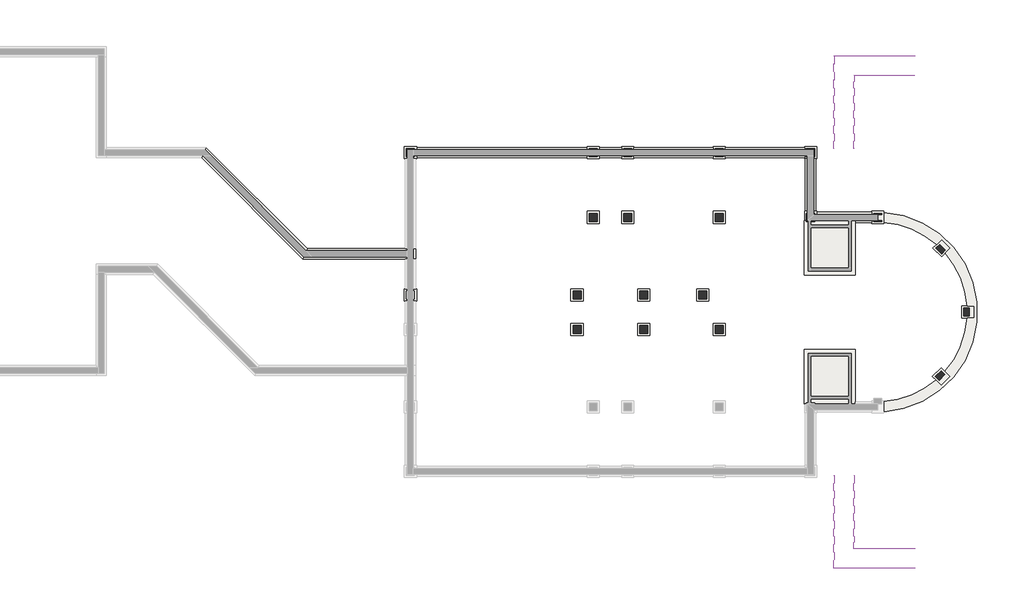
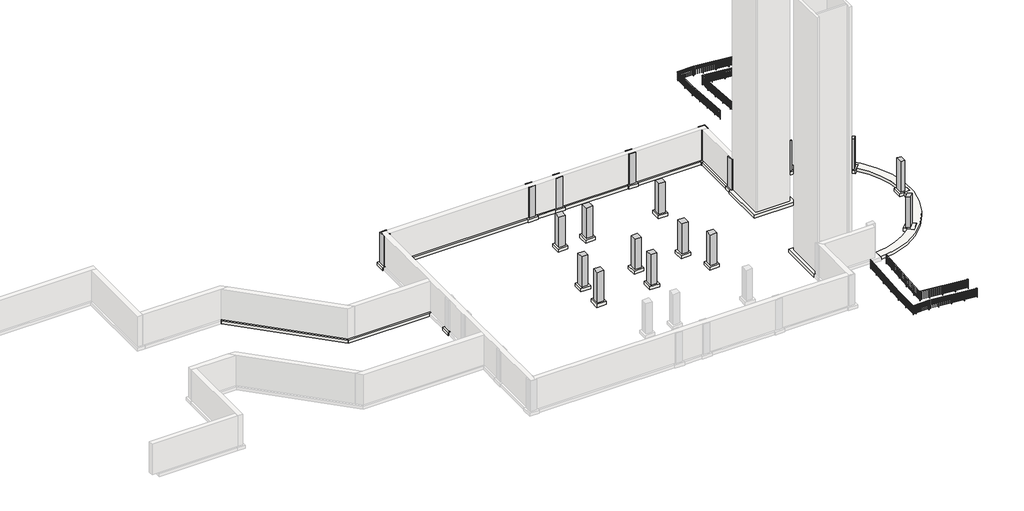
# One storey, part 3 of 3: 22 slabs, 19 columns, 6 footings, 4 railings.
"""IFC4 building model written with IfcOpenShell, lengths in millimetres."""

from ifc_helpers import new_model, si_unit, point, frame, frame_2d, origin, place, context, project, spatial, polyline, circle_curve, trimmed, segment, composite_curve, outline, extrude, faceted_brep, transform, mapped, element, save
from components import concrete_square_column_24_x_24_7ceb939f, handrail_pipe_b21a8dd5, handrail_pipe_77dd8e58, handrail_pipe_39028d69, handrail_pipe_67e9e0a0, slab_e1b4b68c

model = new_model("IFC4")

# Units and contexts
model_context = context("Model", 3, world=origin())
ifc_project = project(units=[si_unit("LENGTHUNIT", "METRE", prefix="MILLI")], contexts=[model_context])

# Site, building, storey
site = spatial("IfcSite", under=ifc_project)
building = spatial("IfcBuilding", under=site)
storey = spatial("IfcBuildingStorey", under=building, Name="T.O. Footing", Elevation=-3048.0)

# Columns
placement = place(None, origin())
element("IfcColumn", 1, ObjectType="Concrete-Square-Column : 24 x 24", at=placement, inside=storey, context=model_context, shape_type="SweptSolid", body=[
    extrude(outline(polyline([(10274.849745, 12872.8862109), (10351.049745, 12872.8862109), (10351.049745, 12796.6862109), (10274.849745, 12796.6862109), (10274.849745, 12872.8862109)])), frame((0.0, 0.0, -3048.0), z_axis=(0.0, 0.0, 1.0), x_axis=(1.0, 0.0, 0.0)), (0.0, 0.0, 1.0), 3048.0),
    extrude(outline(polyline([(10351.049745, 12263.2862109), (9741.449745, 12263.2862109), (9741.449745, 12872.8862109), (9817.649745, 12872.8862109), (9817.649745, 12339.4862109), (10351.049745, 12339.4862109), (10351.049745, 12263.2862109)])), frame((0.0, 0.0, -3048.0), z_axis=(0.0, 0.0, 1.0), x_axis=(1.0, 0.0, 0.0)), (0.0, 0.0, 1.0), 3048.0),
])
element("IfcColumn", 2, ObjectType="Concrete-Square-Column : 24 x 24", at=placement, inside=storey, context=model_context, shape_type="SweptSolid", body=[
    extrude(outline(composite_curve([segment(polyline([(14794.462245, 12872.8862109), (15404.062245, 12872.8862109), (15404.062245, 12790.3786628)]), True, "CONTINUOUS"), segment(trimmed(circle_curve(frame_2d((15099.262245, 5429.0987109)), 7367.5875), [point((15404.062245, 12790.3786628))], [point((15099.262245, 12796.6862109))], True, "CARTESIAN"), True, "CONTINUOUS"), segment(polyline([(15099.262245, 12796.6862109), (14794.462245, 12796.6862109), (14794.462245, 12872.8862109)]), True, "CONTINUOUS")], self_intersect=False)), frame((0.0, 0.0, -3048.0), z_axis=(0.0, 0.0, 1.0), x_axis=(1.0, 0.0, 0.0)), (0.0, 0.0, 1.0), 3048.0),
    extrude(outline(composite_curve([segment(polyline([(15404.062245, 12263.2862109), (14794.462245, 12263.2862109), (14794.462245, 12339.4862109), (15099.262245, 12339.4862109)]), True, "CONTINUOUS"), segment(trimmed(circle_curve(frame_2d((15099.262245, 5429.0987109)), 6910.3875), [point((15099.262245, 12339.4862109))], [point((15404.062245, 12332.7609535))], False, "CARTESIAN"), True, "CONTINUOUS"), segment(polyline([(15404.062245, 12332.7609535), (15404.062245, 12263.2862109)]), True, "CONTINUOUS")], self_intersect=False)), frame((0.0, 0.0, -3048.0), z_axis=(0.0, 0.0, 1.0), x_axis=(1.0, 0.0, 0.0)), (0.0, 0.0, 1.0), 3048.0),
])
element("IfcColumn", 3, ObjectType="Concrete-Square-Column : 24 x 24", at=placement, inside=storey, context=model_context, shape_type="SweptSolid", body=[
    extrude(outline(composite_curve([segment(polyline([(19914.9245899, 9813.708762), (19483.8722961, 10244.7610558), (19765.3624849, 10526.2512446)]), True, "CONTINUOUS"), segment(trimmed(circle_curve(frame_2d((15099.262245, 5429.0987109)), 6910.3875), [point((19765.3624849, 10526.2512446))], [point((20196.4147787, 10095.1989508))], False, "CARTESIAN"), True, "CONTINUOUS"), segment(polyline([(20196.4147787, 10095.1989508), (19914.9245899, 9813.708762)]), True, "CONTINUOUS")], self_intersect=False)), frame((0.0, 0.0, -3048.0), z_axis=(0.0, 0.0, 1.0), x_axis=(1.0, 0.0, 0.0)), (0.0, 0.0, 1.0), 3048.0),
])
element("IfcColumn", 4, ObjectType="Concrete-Square-Column : 24 x 24", at=placement, inside=storey, context=model_context, shape_type="SweptSolid", body=[
    extrude(outline(composite_curve([segment(polyline([(21604.837245, 5124.2987109), (21604.837245, 5733.8987109), (22002.9244876, 5733.8987109)]), True, "CONTINUOUS"), segment(trimmed(circle_curve(frame_2d((15099.262245, 5429.0987109)), 6910.3875), [point((22002.9244876, 5733.8987109))], [point((22002.9244876, 5124.2987109))], False, "CARTESIAN"), True, "CONTINUOUS"), segment(polyline([(22002.9244876, 5124.2987109), (21604.837245, 5124.2987109)]), True, "CONTINUOUS")], self_intersect=False)), frame((0.0, 0.0, -3048.0), z_axis=(0.0, 0.0, 1.0), x_axis=(1.0, 0.0, 0.0)), (0.0, 0.0, 1.0), 3048.0),
])
element("IfcColumn", 5, ObjectType="Concrete-Square-Column : 24 x 24", at=placement, inside=storey, context=model_context, shape_type="SweptSolid", body=[
    extrude(outline(composite_curve([segment(polyline([(19446.7193548, 576.5678742), (19877.7716486, 1007.620168), (20160.8975737, 724.4942429)]), True, "CONTINUOUS"), segment(trimmed(circle_curve(frame_2d((15099.262245, 5429.0987109)), 6910.3875), [point((20160.8975737, 724.4942429))], [point((19726.577104, 296.710125))], False, "CARTESIAN"), True, "CONTINUOUS"), segment(polyline([(19726.577104, 296.710125), (19446.7193548, 576.5678742)]), True, "CONTINUOUS")], self_intersect=False)), frame((0.0, 0.0, -3048.0), z_axis=(0.0, 0.0, 1.0), x_axis=(1.0, 0.0, 0.0)), (0.0, 0.0, 1.0), 3048.0),
])
element("IfcColumn", 6, ObjectType="Concrete-Square-Column : 24 x 24", at=placement, inside=storey, context=model_context, shape_type="Brep", body=[
    faceted_brep([(-19776.525255, 17140.0862109, -3048.0), (-19852.725255, 17140.0862109, -3048.0), (-19852.725255, 17216.2862109, -3048.0), (-19776.525255, 17216.2862109, -3048.0), (-19776.525255, 17140.0862109, 0.0), (-19776.525255, 17216.2862109, 0.0), (-19852.725255, 17140.0862109, 0.0), (-19852.725255, 17216.2862109, 0.0)], [[[0, 1, 2, 3]], [[4, 0, 3, 5]], [[1, 6, 7, 2]], [[0, 4, 6, 1]], [[3, 2, 7, 5]], [[6, 4, 5, 7]]]),
    faceted_brep([(-19776.525255, 17749.6862109, -3048.0), (-20386.125255, 17749.6862109, -3048.0), (-20386.125255, 17749.6862109, 0.0), (-19776.525255, 17749.6862109, 0.0), (-20386.125255, 17140.0862109, 0.0), (-20386.125255, 17140.0862109, -3048.0), (-20309.925255, 17140.0862109, -3048.0), (-20309.925255, 17140.0862109, 0.0), (-20309.925255, 17673.4862109, 0.0), (-19852.725255, 17673.4862109, 0.0), (-19776.525255, 17673.4862109, 0.0), (-20309.925255, 17673.4862109, -3048.0), (-19852.725255, 17673.4862109, -3048.0), (-19776.525255, 17673.4862109, -3048.0)], [[[0, 1, 2, 3]], [[4, 5, 6, 7]], [[1, 5, 4, 2]], [[3, 2, 4, 7, 8, 9, 10]], [[11, 8, 7, 6]], [[8, 11, 12, 13, 10, 9]], [[1, 0, 13, 12, 11, 6, 5]], [[0, 3, 10, 13]]]),
])
element("IfcColumn", 7, ObjectType="Concrete-Square-Column : 24 x 24", at=placement, inside=storey, context=model_context, shape_type="SweptSolid", body=[
    extrude(outline(polyline([(-6009.725255, 17140.0862109), (-6619.325255, 17140.0862109), (-6619.325255, 17216.2862109), (-6009.725255, 17216.2862109), (-6009.725255, 17140.0862109)])), frame((0.0, 0.0, -3048.0), z_axis=(0.0, 0.0, 1.0), x_axis=(1.0, 0.0, 0.0)), (0.0, 0.0, 1.0), 3048.0),
    extrude(outline(polyline([(-6619.325255, 17749.6862109), (-6009.725255, 17749.6862109), (-6009.725255, 17673.4862109), (-6619.325255, 17673.4862109), (-6619.325255, 17749.6862109)])), frame((0.0, 0.0, -3048.0), z_axis=(0.0, 0.0, 1.0), x_axis=(1.0, 0.0, 0.0)), (0.0, 0.0, 1.0), 3048.0),
])
element("IfcColumn", 8, ObjectType="Concrete-Square-Column : 24 x 24", at=placement, inside=storey, context=model_context, shape_type="SweptSolid", body=[
    extrude(outline(polyline([(-3415.750255, 17140.0862109), (-4025.350255, 17140.0862109), (-4025.350255, 17216.2862109), (-3415.750255, 17216.2862109), (-3415.750255, 17140.0862109)])), frame((0.0, 0.0, -3048.0), z_axis=(0.0, 0.0, 1.0), x_axis=(1.0, 0.0, 0.0)), (0.0, 0.0, 1.0), 3048.0),
    extrude(outline(polyline([(-4025.350255, 17749.6862109), (-3415.750255, 17749.6862109), (-3415.750255, 17673.4862109), (-4025.350255, 17673.4862109), (-4025.350255, 17749.6862109)])), frame((0.0, 0.0, -3048.0), z_axis=(0.0, 0.0, 1.0), x_axis=(1.0, 0.0, 0.0)), (0.0, 0.0, 1.0), 3048.0),
])
element("IfcColumn", 9, ObjectType="Concrete-Square-Column : 24 x 24", at=placement, inside=storey, context=model_context, shape_type="SweptSolid", body=[
    extrude(outline(polyline([(3467.649745, 17140.0862109), (2858.049745, 17140.0862109), (2858.049745, 17216.2862109), (3467.649745, 17216.2862109), (3467.649745, 17140.0862109)])), frame((0.0, 0.0, -3048.0), z_axis=(0.0, 0.0, 1.0), x_axis=(1.0, 0.0, 0.0)), (0.0, 0.0, 1.0), 3048.0),
    extrude(outline(polyline([(2858.049745, 17749.6862109), (3467.649745, 17749.6862109), (3467.649745, 17673.4862109), (2858.049745, 17673.4862109), (2858.049745, 17749.6862109)])), frame((0.0, 0.0, -3048.0), z_axis=(0.0, 0.0, 1.0), x_axis=(1.0, 0.0, 0.0)), (0.0, 0.0, 1.0), 3048.0),
])
element("IfcColumn", 10, ObjectType="Concrete-Square-Column : 24 x 24", at=placement, inside=storey, context=model_context, shape_type="Brep", body=[
    faceted_brep([(9741.449745, 17140.0862109, -3048.0), (9741.449745, 17216.2862109, -3048.0), (9817.649745, 17216.2862109, -3048.0), (9817.649745, 17140.0862109, -3048.0), (9741.449745, 17140.0862109, 0.0), (9817.649745, 17140.0862109, 0.0), (9741.449745, 17216.2862109, 0.0), (9817.649745, 17216.2862109, 0.0)], [[[0, 1, 2, 3]], [[4, 0, 3, 5]], [[0, 4, 6, 1]], [[1, 6, 7, 2]], [[3, 2, 7, 5]], [[6, 4, 5, 7]]]),
    faceted_brep([(10351.049745, 17749.6862109, -3048.0), (9741.449745, 17749.6862109, -3048.0), (9741.449745, 17749.6862109, 0.0), (10351.049745, 17749.6862109, 0.0), (10351.049745, 17140.0862109, -3048.0), (10351.049745, 17140.0862109, 0.0), (9741.449745, 17673.4862109, 0.0), (10274.849745, 17673.4862109, 0.0), (10274.849745, 17216.2862109, 0.0), (10274.849745, 17140.0862109, 0.0), (10274.849745, 17673.4862109, -3048.0), (9741.449745, 17673.4862109, -3048.0), (10274.849745, 17216.2862109, -3048.0), (10274.849745, 17140.0862109, -3048.0)], [[[0, 1, 2, 3]], [[4, 0, 3, 5]], [[3, 2, 6, 7, 8, 9, 5]], [[10, 7, 6, 11]], [[7, 10, 12, 13, 9, 8]], [[2, 1, 11, 6]], [[1, 0, 4, 13, 12, 10, 11]], [[4, 5, 9, 13]]]),
])
concrete_square_column_24_x_24_shape = concrete_square_column_24_x_24_7ceb939f(model_context)
element("IfcColumn", 11, ObjectType="Concrete-Square-Column : 24 x 24", at=placement, inside=storey, context=model_context, shape_type="MappedRepresentation", body=[
    mapped(concrete_square_column_24_x_24_shape, transform((-6314.525255, 12568.0862109, 0.0), x_axis=(1.0, 0.0, 0.0), y_axis=(0.0, 1.0, 0.0), z_axis=(0.0, 0.0, 1.0))),
])
element("IfcColumn", 12, ObjectType="Concrete-Square-Column : 24 x 24", at=placement, inside=storey, context=model_context, shape_type="MappedRepresentation", body=[
    mapped(concrete_square_column_24_x_24_shape, transform((-3720.550255, 12568.0862109, 0.0), x_axis=(1.0, 0.0, 0.0), y_axis=(0.0, 1.0, 0.0), z_axis=(0.0, 0.0, 1.0))),
])
element("IfcColumn", 13, ObjectType="Concrete-Square-Column : 24 x 24", at=placement, inside=storey, context=model_context, shape_type="MappedRepresentation", body=[
    mapped(concrete_square_column_24_x_24_shape, transform((3162.849745, 12568.0862109, 0.0), x_axis=(1.0, 0.0, 0.0), y_axis=(0.0, 1.0, 0.0), z_axis=(0.0, 0.0, 1.0))),
])
element("IfcColumn", 14, ObjectType="Concrete-Square-Column : 24 x 24", at=placement, inside=storey, context=model_context, shape_type="MappedRepresentation", body=[
    mapped(concrete_square_column_24_x_24_shape, transform((-7533.725255, 6726.0862109, 0.0), x_axis=(1.0, 0.0, 0.0), y_axis=(0.0, 1.0, 0.0), z_axis=(0.0, 0.0, 1.0))),
])
element("IfcColumn", 15, ObjectType="Concrete-Square-Column : 24 x 24", at=placement, inside=storey, context=model_context, shape_type="MappedRepresentation", body=[
    mapped(concrete_square_column_24_x_24_shape, transform((-2501.350255, 6726.0862109, 0.0), x_axis=(1.0, 0.0, 0.0), y_axis=(0.0, 1.0, 0.0), z_axis=(0.0, 0.0, 1.0))),
])
element("IfcColumn", 16, ObjectType="Concrete-Square-Column : 24 x 24", at=placement, inside=storey, context=model_context, shape_type="MappedRepresentation", body=[
    mapped(concrete_square_column_24_x_24_shape, transform((1943.649745, 6726.0862109, 0.0), x_axis=(1.0, 0.0, 0.0), y_axis=(0.0, 1.0, 0.0), z_axis=(0.0, 0.0, 1.0))),
])
element("IfcColumn", 17, ObjectType="Concrete-Square-Column : 24 x 24", at=placement, inside=storey, context=model_context, shape_type="MappedRepresentation", body=[
    mapped(concrete_square_column_24_x_24_shape, transform((-7533.725255, 4132.1112109, 0.0), x_axis=(-1.0, 0.0, 0.0), y_axis=(0.0, -1.0, 0.0), z_axis=(0.0, 0.0, 1.0))),
])
element("IfcColumn", 18, ObjectType="Concrete-Square-Column : 24 x 24", at=placement, inside=storey, context=model_context, shape_type="MappedRepresentation", body=[
    mapped(concrete_square_column_24_x_24_shape, transform((-2501.350255, 4132.1112109, 0.0), x_axis=(-1.0, 0.0, 0.0), y_axis=(0.0, -1.0, 0.0), z_axis=(0.0, 0.0, 1.0))),
])
element("IfcColumn", 19, ObjectType="Concrete-Square-Column : 24 x 24", at=placement, inside=storey, context=model_context, shape_type="MappedRepresentation", body=[
    mapped(concrete_square_column_24_x_24_shape, transform((3162.849745, 4132.1112109, 0.0), x_axis=(-1.0, 0.0, 0.0), y_axis=(0.0, -1.0, 0.0), z_axis=(0.0, 0.0, 1.0))),
])

# Footings
element("IfcFooting", 20, ObjectType="Bearing Footing - 30\" x 12\"", at=placement, inside=storey, context=model_context, shape_type="SweptSolid", body=[
    extrude(outline(polyline([(-35485.7016024, 17825.8862109), (-27865.7016024, 10205.8862109), (-28181.332337, 9443.8862109), (-35801.332337, 17063.8862109), (-35485.7016024, 17825.8862109)])), frame((0.0, 0.0, -3352.8), z_axis=(0.0, 0.0, 1.0), x_axis=(1.0, 0.0, 0.0)), (0.0, 0.0, 1.0), 304.8),
])
element("IfcFooting", 21, ObjectType="Bearing Footing - 30\" x 12\"", at=placement, inside=storey, context=model_context, shape_type="Brep", body=[
    faceted_brep([(-28181.332337, 9443.8862109, -3048.0), (-20462.325255, 9443.8862109, -3048.0), (-19700.325255, 9443.8862109, -3048.0), (-19700.325255, 10205.8862109, -3048.0), (-20462.325255, 10205.8862109, -3048.0), (-27865.7016024, 10205.8862109, -3048.0), (-28181.332337, 9443.8862109, -3352.8), (-20462.325255, 9443.8862109, -3352.8), (-19700.325255, 9443.8862109, -3352.8), (-27865.7016024, 10205.8862109, -3352.8), (-20462.325255, 10205.8862109, -3352.8), (-19700.325255, 10205.8862109, -3352.8)], [[[0, 1, 2, 3, 4, 5]], [[2, 1, 0, 6, 7, 8]], [[8, 7, 6, 9, 10, 11]], [[3, 11, 10, 9, 5, 4]], [[0, 5, 9, 6]], [[3, 2, 8, 11]]]),
])
element("IfcFooting", 22, ObjectType="Bearing Footing - 30\" x 12\"", at=placement, inside=storey, context=model_context, shape_type="SweptSolid", body=[
    extrude(outline(polyline([(9606.512245, 17825.8862109), (9606.512245, 17063.8862109), (3620.049745, 17063.8862109), (3620.049745, 17825.8862109), (9606.512245, 17825.8862109)])), frame((0.0, 0.0, -3352.8), z_axis=(0.0, 0.0, 1.0), x_axis=(1.0, 0.0, 0.0)), (0.0, 0.0, 1.0), 304.8),
    extrude(outline(polyline([(2705.649745, 17825.8862109), (2705.649745, 17063.8862109), (-3263.350255, 17063.8862109), (-3263.350255, 17825.8862109), (2705.649745, 17825.8862109)])), frame((0.0, 0.0, -3352.8), z_axis=(0.0, 0.0, 1.0), x_axis=(1.0, 0.0, 0.0)), (0.0, 0.0, 1.0), 304.8),
    extrude(outline(polyline([(-4177.750255, 17825.8862109), (-4177.750255, 17063.8862109), (-5857.325255, 17063.8862109), (-5857.325255, 17825.8862109), (-4177.750255, 17825.8862109)])), frame((0.0, 0.0, -3352.8), z_axis=(0.0, 0.0, 1.0), x_axis=(1.0, 0.0, 0.0)), (0.0, 0.0, 1.0), 304.8),
    extrude(outline(polyline([(-6771.725255, 17825.8862109), (-6771.725255, 17063.8862109), (-19624.125255, 17063.8862109), (-19624.125255, 17825.8862109), (-6771.725255, 17825.8862109)])), frame((0.0, 0.0, -3352.8), z_axis=(0.0, 0.0, 1.0), x_axis=(1.0, 0.0, 0.0)), (0.0, 0.0, 1.0), 304.8),
])
element("IfcFooting", 23, ObjectType="Bearing Footing - 30\" x 12\"", at=placement, inside=storey, context=model_context, shape_type="SweptSolid", body=[
    extrude(outline(polyline([(9665.249745, 16987.6862109), (10427.249745, 16987.6862109), (10427.249745, 13025.2862109), (9665.249745, 13025.2862109), (9665.249745, 16987.6862109)])), frame((0.0, 0.0, -3352.8), z_axis=(0.0, 0.0, 1.0), x_axis=(1.0, 0.0, 0.0)), (0.0, 0.0, 1.0), 304.8),
])
element("IfcFooting", 24, ObjectType="Bearing Footing - 30\" x 12\"", at=placement, inside=storey, context=model_context, shape_type="SweptSolid", body=[
    extrude(outline(polyline([(13416.512245, 12187.0862109), (13416.512245, 12339.4862109), (10520.912245, 12339.4862109), (10520.912245, 12949.0862109), (14642.062245, 12949.0862109), (14642.062245, 12187.0862109), (13416.512245, 12187.0862109)])), frame((0.0, 0.0, -3352.8), z_axis=(0.0, 0.0, 1.0), x_axis=(1.0, 0.0, 0.0)), (0.0, 0.0, 1.0), 304.8),
])
element("IfcFooting", 25, ObjectType="Bearing Footing - 30\" x 12\"", at=placement, inside=storey, context=model_context, shape_type="SweptSolid", body=[
    extrude(outline(composite_curve([segment(polyline([(15556.462245, -2076.9775051), (15556.462245, -1313.4055131)]), True, "CONTINUOUS"), segment(trimmed(circle_curve(frame_2d((15099.262245, 5429.0987109)), 6757.9875), [point((15556.462245, -1313.4055131))], [point((19503.9787279, 303.7823542))], True, "CARTESIAN"), True, "CONTINUOUS"), segment(polyline([(19503.9787279, 303.7823542), (19877.7716486, -70.0105665), (20524.3500893, 576.5678742), (20155.5766128, 945.3413507)]), True, "CONTINUOUS"), segment(trimmed(circle_curve(frame_2d((15099.262245, 5429.0987109)), 6757.9875), [point((20155.5766128, 945.3413507))], [point((21841.766469, 4971.8987109))], True, "CARTESIAN"), True, "CONTINUOUS"), segment(polyline([(21841.766469, 4971.8987109), (22366.837245, 4971.8987109), (22366.837245, 5886.2987109), (21841.766469, 5886.2987109)]), True, "CONTINUOUS"), segment(trimmed(circle_curve(frame_2d((15099.262245, 5429.0987109)), 6757.9875), [point((21841.766469, 5886.2987109))], [point((20190.2219243, 9873.4799495))], True, "CARTESIAN"), True, "CONTINUOUS"), segment(polyline([(20190.2219243, 9873.4799495), (20561.5030307, 10244.7610558), (19914.9245899, 10891.3394965), (19543.6434836, 10520.0583902)]), True, "CONTINUOUS"), segment(trimmed(circle_curve(frame_2d((15099.262245, 5429.0987109)), 6757.9875), [point((19543.6434836, 10520.0583902))], [point((15556.462245, 12171.6029349))], True, "CARTESIAN"), True, "CONTINUOUS"), segment(polyline([(15556.462245, 12171.6029349), (15556.462245, 12935.1749269)]), True, "CONTINUOUS"), segment(trimmed(circle_curve(frame_2d((15099.262245, 5429.0987109)), 7519.9875), [point((15556.462245, 12935.1749269))], [point((15556.462245, -2076.9775051))], False, "CARTESIAN"), True, "CONTINUOUS")], self_intersect=False)), frame((0.0, 0.0, -3352.8), z_axis=(0.0, 0.0, 1.0), x_axis=(1.0, 0.0, 0.0)), (0.0, 0.0, 1.0), 304.8),
])

# Railings
handrail_pipe_shape = handrail_pipe_b21a8dd5(model_context)
element("IfcRailing", 26, ObjectType="Handrail - Pipe", at=placement, inside=storey, context=model_context, shape_type="MappedRepresentation", body=[
    mapped(handrail_pipe_shape, transform((0.0, 0.0, 0.0), x_axis=(1.0, 0.0, 0.0), y_axis=(0.0, 1.0, 0.0), z_axis=(0.0, 0.0, 1.0))),
])
handrail_pipe_2_shape = handrail_pipe_77dd8e58(model_context)
element("IfcRailing", 27, ObjectType="Handrail - Pipe", at=placement, inside=storey, context=model_context, shape_type="MappedRepresentation", body=[
    mapped(handrail_pipe_2_shape, transform((0.0, 0.0, 0.0), x_axis=(1.0, 0.0, 0.0), y_axis=(0.0, 1.0, 0.0), z_axis=(0.0, 0.0, 1.0))),
])
handrail_pipe_3_shape = handrail_pipe_39028d69(model_context)
element("IfcRailing", 28, ObjectType="Handrail - Pipe", at=placement, inside=storey, context=model_context, shape_type="MappedRepresentation", body=[
    mapped(handrail_pipe_3_shape, transform((0.0, 0.0, 0.0), x_axis=(1.0, 0.0, 0.0), y_axis=(0.0, 1.0, 0.0), z_axis=(0.0, 0.0, 1.0))),
])
handrail_pipe_4_shape = handrail_pipe_67e9e0a0(model_context)
element("IfcRailing", 29, ObjectType="Handrail - Pipe", at=placement, inside=storey, context=model_context, shape_type="MappedRepresentation", body=[
    mapped(handrail_pipe_4_shape, transform((0.0, 0.0, 0.0), x_axis=(1.0, 0.0, 0.0), y_axis=(0.0, 1.0, 0.0), z_axis=(0.0, 0.0, 1.0))),
])

# Slabs
element("IfcSlab", 30, ObjectType="12\" Elevator Slab", at=placement, inside=storey, context=model_context, shape_type="Brep", body=[
    faceted_brep([(9565.237245, 8235.7987109, -3352.8), (9565.237245, 12339.4862109, -3352.8), (9606.512245, 12339.4862109, -3352.8), (10520.912245, 12339.4862109, -3352.8), (13416.512245, 12339.4862109, -3352.8), (13416.512245, 12187.0862109, -3352.8), (13416.512245, 8235.7987109, -3352.8), (9565.237245, 8235.7987109, -3048.0), (13416.512245, 8235.7987109, -3048.0), (13416.512245, 12187.0862109, -3048.0), (13416.512245, 12339.4862109, -3048.0), (10520.912245, 12339.4862109, -3048.0), (9606.512245, 12339.4862109, -3048.0), (9565.237245, 12339.4862109, -3048.0)], [[[0, 1, 2, 3, 4, 5, 6]], [[7, 8, 9, 10, 11, 12, 13]], [[1, 0, 7, 13]], [[4, 3, 2, 1, 13, 12, 11, 10]], [[6, 5, 4, 10, 9, 8]], [[0, 6, 8, 7]]]),
])
element("IfcSlab", 31, ObjectType="12\" Elevator Slab", at=placement, inside=storey, context=model_context, shape_type="Brep", body=[
    faceted_brep([(9565.237245, 2622.3987109, -3352.8), (13416.512245, 2622.3987109, -3352.8), (13416.512245, -1328.8887891, -3352.8), (13416.512245, -1481.2887891, -3352.8), (10520.912245, -1481.2887891, -3352.8), (9606.512245, -1481.2887891, -3352.8), (9565.237245, -1481.2887891, -3352.8), (9565.237245, 2622.3987109, -3048.0), (9565.237245, -1481.2887891, -3048.0), (9606.512245, -1481.2887891, -3048.0), (10520.912245, -1481.2887891, -3048.0), (13416.512245, -1481.2887891, -3048.0), (13416.512245, -1328.8887891, -3048.0), (13416.512245, 2622.3987109, -3048.0)], [[[0, 1, 2, 3, 4, 5, 6]], [[7, 8, 9, 10, 11, 12, 13]], [[0, 6, 8, 7]], [[6, 5, 4, 3, 11, 10, 9, 8]], [[3, 2, 1, 13, 12, 11]], [[1, 0, 7, 13]]]),
])
element("IfcSlab", 32, ObjectType="Footing-Rectangular : 36\" x 36 x 12\"", at=placement, inside=storey, context=model_context, shape_type="Brep", body=[
    faceted_brep([(10520.912245, 17902.0862109, -3048.0), (9606.512245, 17902.0862109, -3048.0), (9606.512245, 17825.8862109, -3048.0), (9606.512245, 17063.8862109, -3048.0), (9606.512245, 16987.6862109, -3048.0), (9665.249745, 16987.6862109, -3048.0), (10427.249745, 16987.6862109, -3048.0), (10520.912245, 16987.6862109, -3048.0), (10520.912245, 17902.0862109, -3352.8), (10520.912245, 16987.6862109, -3352.8), (10427.249745, 16987.6862109, -3352.8), (9665.249745, 16987.6862109, -3352.8), (9606.512245, 16987.6862109, -3352.8), (9606.512245, 17063.8862109, -3352.8), (9606.512245, 17825.8862109, -3352.8), (9606.512245, 17902.0862109, -3352.8)], [[[0, 1, 2, 3, 4, 5, 6, 7]], [[8, 9, 10, 11, 12, 13, 14, 15]], [[1, 0, 8, 15]], [[4, 3, 2, 1, 15, 14, 13, 12]], [[7, 6, 5, 4, 12, 11, 10, 9]], [[0, 7, 9, 8]]]),
])
element("IfcSlab", 33, ObjectType="Footing-Rectangular : 36\" x 36 x 12\"", at=placement, inside=storey, context=model_context, shape_type="Brep", body=[
    faceted_brep([(3620.049745, 17902.0862109, -3048.0), (2705.649745, 17902.0862109, -3048.0), (2705.649745, 17825.8862109, -3048.0), (2705.649745, 17063.8862109, -3048.0), (2705.649745, 16987.6862109, -3048.0), (3620.049745, 16987.6862109, -3048.0), (3620.049745, 17063.8862109, -3048.0), (3620.049745, 17825.8862109, -3048.0), (3620.049745, 17902.0862109, -3352.8), (3620.049745, 17825.8862109, -3352.8), (3620.049745, 17063.8862109, -3352.8), (3620.049745, 16987.6862109, -3352.8), (2705.649745, 16987.6862109, -3352.8), (2705.649745, 17063.8862109, -3352.8), (2705.649745, 17825.8862109, -3352.8), (2705.649745, 17902.0862109, -3352.8)], [[[0, 1, 2, 3, 4, 5, 6, 7]], [[8, 9, 10, 11, 12, 13, 14, 15]], [[1, 0, 8, 15]], [[4, 3, 2, 1, 15, 14, 13, 12]], [[5, 4, 12, 11]], [[0, 7, 6, 5, 11, 10, 9, 8]]]),
])
element("IfcSlab", 34, ObjectType="Footing-Rectangular : 36\" x 36 x 12\"", at=placement, inside=storey, context=model_context, shape_type="Brep", body=[
    faceted_brep([(-3263.350255, 17902.0862109, -3048.0), (-4177.750255, 17902.0862109, -3048.0), (-4177.750255, 17825.8862109, -3048.0), (-4177.750255, 17063.8862109, -3048.0), (-4177.750255, 16987.6862109, -3048.0), (-3263.350255, 16987.6862109, -3048.0), (-3263.350255, 17063.8862109, -3048.0), (-3263.350255, 17825.8862109, -3048.0), (-3263.350255, 17902.0862109, -3352.8), (-3263.350255, 17825.8862109, -3352.8), (-3263.350255, 17063.8862109, -3352.8), (-3263.350255, 16987.6862109, -3352.8), (-4177.750255, 16987.6862109, -3352.8), (-4177.750255, 17063.8862109, -3352.8), (-4177.750255, 17825.8862109, -3352.8), (-4177.750255, 17902.0862109, -3352.8)], [[[0, 1, 2, 3, 4, 5, 6, 7]], [[8, 9, 10, 11, 12, 13, 14, 15]], [[1, 0, 8, 15]], [[4, 3, 2, 1, 15, 14, 13, 12]], [[5, 4, 12, 11]], [[0, 7, 6, 5, 11, 10, 9, 8]]]),
])
element("IfcSlab", 35, ObjectType="Footing-Rectangular : 36\" x 36 x 12\"", at=placement, inside=storey, context=model_context, shape_type="Brep", body=[
    faceted_brep([(-5857.325255, 17902.0862109, -3048.0), (-6771.725255, 17902.0862109, -3048.0), (-6771.725255, 17825.8862109, -3048.0), (-6771.725255, 17063.8862109, -3048.0), (-6771.725255, 16987.6862109, -3048.0), (-5857.325255, 16987.6862109, -3048.0), (-5857.325255, 17063.8862109, -3048.0), (-5857.325255, 17825.8862109, -3048.0), (-5857.325255, 17902.0862109, -3352.8), (-5857.325255, 17825.8862109, -3352.8), (-5857.325255, 17063.8862109, -3352.8), (-5857.325255, 16987.6862109, -3352.8), (-6771.725255, 16987.6862109, -3352.8), (-6771.725255, 17063.8862109, -3352.8), (-6771.725255, 17825.8862109, -3352.8), (-6771.725255, 17902.0862109, -3352.8)], [[[0, 1, 2, 3, 4, 5, 6, 7]], [[8, 9, 10, 11, 12, 13, 14, 15]], [[1, 0, 8, 15]], [[4, 3, 2, 1, 15, 14, 13, 12]], [[5, 4, 12, 11]], [[0, 7, 6, 5, 11, 10, 9, 8]]]),
])
element("IfcSlab", 36, ObjectType="Footing-Rectangular : 36\" x 36 x 12\"", at=placement, inside=storey, context=model_context, shape_type="Brep", body=[
    faceted_brep([(-19624.125255, 17902.0862109, -3048.0), (-20538.525255, 17902.0862109, -3048.0), (-20538.525255, 16987.6862109, -3048.0), (-20462.325255, 16987.6862109, -3048.0), (-19700.325255, 16987.6862109, -3048.0), (-19624.125255, 16987.6862109, -3048.0), (-19624.125255, 17063.8862109, -3048.0), (-19624.125255, 17825.8862109, -3048.0), (-19624.125255, 17902.0862109, -3352.8), (-19624.125255, 17825.8862109, -3352.8), (-19624.125255, 17063.8862109, -3352.8), (-19624.125255, 16987.6862109, -3352.8), (-19700.325255, 16987.6862109, -3352.8), (-20462.325255, 16987.6862109, -3352.8), (-20538.525255, 16987.6862109, -3352.8), (-20538.525255, 17902.0862109, -3352.8)], [[[0, 1, 2, 3, 4, 5, 6, 7]], [[8, 9, 10, 11, 12, 13, 14, 15]], [[1, 0, 8, 15]], [[2, 1, 15, 14]], [[5, 4, 3, 2, 14, 13, 12, 11]], [[0, 7, 6, 5, 11, 10, 9, 8]]]),
])
element("IfcSlab", 37, ObjectType="Footing-Rectangular : 36\" x 36 x 12\"", at=placement, inside=storey, context=model_context, shape_type="Brep", body=[
    faceted_brep([(-19624.125255, 7183.2862109, -3048.0), (-19700.325255, 7183.2862109, -3048.0), (-20462.325255, 7183.2862109, -3048.0), (-20538.525255, 7183.2862109, -3048.0), (-20538.525255, 6268.8862109, -3048.0), (-20462.325255, 6268.8862109, -3048.0), (-19700.325255, 6268.8862109, -3048.0), (-19624.125255, 6268.8862109, -3048.0), (-19624.125255, 7183.2862109, -3352.8), (-19624.125255, 6268.8862109, -3352.8), (-19700.325255, 6268.8862109, -3352.8), (-20462.325255, 6268.8862109, -3352.8), (-20538.525255, 6268.8862109, -3352.8), (-20538.525255, 7183.2862109, -3352.8), (-20462.325255, 7183.2862109, -3352.8), (-19700.325255, 7183.2862109, -3352.8)], [[[0, 1, 2, 3, 4, 5, 6, 7]], [[8, 9, 10, 11, 12, 13, 14, 15]], [[3, 2, 1, 0, 8, 15, 14, 13]], [[4, 3, 13, 12]], [[7, 6, 5, 4, 12, 11, 10, 9]], [[0, 7, 9, 8]]]),
])
element("IfcSlab", 38, ObjectType="Footing-Rectangular : 36\" x 36 x 12\"", at=placement, inside=storey, context=model_context, shape_type="Brep", body=[
    faceted_brep([(19877.7716486, 1223.1463149, -3048.0), (19231.1932078, 576.5678742, -3048.0), (19503.9787279, 303.7823542, -3048.0), (19877.7716486, -70.0105665, -3048.0), (20524.3500893, 576.5678742, -3048.0), (20155.5766128, 945.3413507, -3048.0), (19877.7716486, 1223.1463149, -3352.8), (20155.5766128, 945.3413507, -3352.8), (20524.3500893, 576.5678742, -3352.8), (19877.7716486, -70.0105665, -3352.8), (19503.9787279, 303.7823542, -3352.8), (19231.1932078, 576.5678742, -3352.8)], [[[0, 1, 2, 3, 4, 5]], [[6, 7, 8, 9, 10, 11]], [[1, 0, 6, 11]], [[3, 2, 1, 11, 10, 9]], [[4, 3, 9, 8]], [[0, 5, 4, 8, 7, 6]]]),
])
element("IfcSlab", 39, ObjectType="Footing-Rectangular : 36\" x 36 x 12\"", at=placement, inside=storey, context=model_context, shape_type="Brep", body=[
    faceted_brep([(21452.437245, 5886.2987109, -3048.0), (21452.437245, 4971.8987109, -3048.0), (21841.766469, 4971.8987109, -3048.0), (22366.837245, 4971.8987109, -3048.0), (22366.837245, 5886.2987109, -3048.0), (21841.766469, 5886.2987109, -3048.0), (21452.437245, 5886.2987109, -3352.8), (21841.766469, 5886.2987109, -3352.8), (22366.837245, 5886.2987109, -3352.8), (22366.837245, 4971.8987109, -3352.8), (21841.766469, 4971.8987109, -3352.8), (21452.437245, 4971.8987109, -3352.8)], [[[0, 1, 2, 3, 4, 5]], [[6, 7, 8, 9, 10, 11]], [[1, 0, 6, 11]], [[3, 2, 1, 11, 10, 9]], [[4, 3, 9, 8]], [[0, 5, 4, 8, 7, 6]]]),
])
element("IfcSlab", 40, ObjectType="Footing-Rectangular : 36\" x 36 x 12\"", at=placement, inside=storey, context=model_context, shape_type="Brep", body=[
    faceted_brep([(19268.3461492, 10244.7610558, -3048.0), (19914.9245899, 9598.1826151, -3048.0), (20190.2219243, 9873.4799495, -3048.0), (20561.5030307, 10244.7610558, -3048.0), (19914.9245899, 10891.3394965, -3048.0), (19543.6434836, 10520.0583902, -3048.0), (19268.3461492, 10244.7610558, -3352.8), (19543.6434836, 10520.0583902, -3352.8), (19914.9245899, 10891.3394965, -3352.8), (20561.5030307, 10244.7610558, -3352.8), (20190.2219243, 9873.4799495, -3352.8), (19914.9245899, 9598.1826151, -3352.8)], [[[0, 1, 2, 3, 4, 5]], [[6, 7, 8, 9, 10, 11]], [[1, 0, 6, 11]], [[3, 2, 1, 11, 10, 9]], [[4, 3, 9, 8]], [[0, 5, 4, 8, 7, 6]]]),
])
element("IfcSlab", 41, ObjectType="Footing-Rectangular : 36\" x 36 x 12\"", at=placement, inside=storey, context=model_context, shape_type="Brep", body=[
    faceted_brep([(14642.062245, 12110.8862109, -3048.0), (15556.462245, 12110.8862109, -3048.0), (15556.462245, 12171.6029349, -3048.0), (15556.462245, 12935.1749269, -3048.0), (15556.462245, 13025.2862109, -3048.0), (14642.062245, 13025.2862109, -3048.0), (14642.062245, 12949.0862109, -3048.0), (14642.062245, 12187.0862109, -3048.0), (14642.062245, 12110.8862109, -3352.8), (14642.062245, 12187.0862109, -3352.8), (14642.062245, 12949.0862109, -3352.8), (14642.062245, 13025.2862109, -3352.8), (15556.462245, 13025.2862109, -3352.8), (15556.462245, 12935.1749269, -3352.8), (15556.462245, 12171.6029349, -3352.8), (15556.462245, 12110.8862109, -3352.8)], [[[0, 1, 2, 3, 4, 5, 6, 7]], [[8, 9, 10, 11, 12, 13, 14, 15]], [[1, 0, 8, 15]], [[4, 3, 2, 1, 15, 14, 13, 12]], [[5, 4, 12, 11]], [[0, 7, 6, 5, 11, 10, 9, 8]]]),
])
element("IfcSlab", 42, ObjectType="Footing-Rectangular : 36\" x 36 x 12\"", at=placement, inside=storey, context=model_context, shape_type="Brep", body=[
    faceted_brep([(10520.912245, 13025.2862109, -3048.0), (10427.249745, 13025.2862109, -3048.0), (9665.249745, 13025.2862109, -3048.0), (9606.512245, 13025.2862109, -3048.0), (9606.512245, 12339.4862109, -3048.0), (10520.912245, 12339.4862109, -3048.0), (10520.912245, 12949.0862109, -3048.0), (9606.512245, 13025.2862109, -3352.8), (9665.249745, 13025.2862109, -3352.8), (10427.249745, 13025.2862109, -3352.8), (10520.912245, 13025.2862109, -3352.8), (10520.912245, 12949.0862109, -3352.8), (10520.912245, 12339.4862109, -3352.8), (9606.512245, 12339.4862109, -3352.8)], [[[0, 1, 2, 3, 4, 5, 6]], [[7, 8, 9, 10, 11, 12, 13]], [[10, 0, 6, 5, 12, 11]], [[3, 2, 1, 0, 10, 9, 8, 7]], [[3, 7, 13, 4]], [[5, 4, 13, 12]]]),
])
slab_shape = slab_e1b4b68c(model_context)
element("IfcSlab", 43, ObjectType="Footing-Rectangular : 36\" x 36 x 12\"", at=placement, inside=storey, context=model_context, shape_type="MappedRepresentation", body=[
    mapped(slab_shape, transform((3162.849745, 12568.0862109, -3048.0), x_axis=(0.0, -1.0, 0.0), y_axis=(1.0, 0.0, 0.0), z_axis=(0.0, 0.0, 1.0))),
])
element("IfcSlab", 44, ObjectType="Footing-Rectangular : 36\" x 36 x 12\"", at=placement, inside=storey, context=model_context, shape_type="MappedRepresentation", body=[
    mapped(slab_shape, transform((1943.649745, 6726.0862109, -3048.0), x_axis=(0.0, -1.0, 0.0), y_axis=(1.0, 0.0, 0.0), z_axis=(0.0, 0.0, 1.0))),
])
element("IfcSlab", 45, ObjectType="Footing-Rectangular : 36\" x 36 x 12\"", at=placement, inside=storey, context=model_context, shape_type="MappedRepresentation", body=[
    mapped(slab_shape, transform((3162.849745, 4132.1112109, -3048.0), x_axis=(0.0, -1.0, 0.0), y_axis=(1.0, 0.0, 0.0), z_axis=(0.0, 0.0, 1.0))),
])
element("IfcSlab", 46, ObjectType="Footing-Rectangular : 36\" x 36 x 12\"", at=placement, inside=storey, context=model_context, shape_type="MappedRepresentation", body=[
    mapped(slab_shape, transform((-2501.350255, 4132.1112109, -3048.0), x_axis=(0.0, -1.0, 0.0), y_axis=(1.0, 0.0, 0.0), z_axis=(0.0, 0.0, 1.0))),
])
element("IfcSlab", 47, ObjectType="Footing-Rectangular : 36\" x 36 x 12\"", at=placement, inside=storey, context=model_context, shape_type="MappedRepresentation", body=[
    mapped(slab_shape, transform((-2501.350255, 6726.0862109, -3048.0), x_axis=(0.0, -1.0, 0.0), y_axis=(1.0, 0.0, 0.0), z_axis=(0.0, 0.0, 1.0))),
])
element("IfcSlab", 48, ObjectType="Footing-Rectangular : 36\" x 36 x 12\"", at=placement, inside=storey, context=model_context, shape_type="MappedRepresentation", body=[
    mapped(slab_shape, transform((-3720.550255, 12568.0862109, -3048.0), x_axis=(0.0, -1.0, 0.0), y_axis=(1.0, 0.0, 0.0), z_axis=(0.0, 0.0, 1.0))),
])
element("IfcSlab", 49, ObjectType="Footing-Rectangular : 36\" x 36 x 12\"", at=placement, inside=storey, context=model_context, shape_type="MappedRepresentation", body=[
    mapped(slab_shape, transform((-6314.525255, 12568.0862109, -3048.0), x_axis=(0.0, -1.0, 0.0), y_axis=(1.0, 0.0, 0.0), z_axis=(0.0, 0.0, 1.0))),
])
element("IfcSlab", 50, ObjectType="Footing-Rectangular : 36\" x 36 x 12\"", at=placement, inside=storey, context=model_context, shape_type="MappedRepresentation", body=[
    mapped(slab_shape, transform((-7533.725255, 6726.0862109, -3048.0), x_axis=(0.0, -1.0, 0.0), y_axis=(1.0, 0.0, 0.0), z_axis=(0.0, 0.0, 1.0))),
])
element("IfcSlab", 51, ObjectType="Footing-Rectangular : 36\" x 36 x 12\"", at=placement, inside=storey, context=model_context, shape_type="MappedRepresentation", body=[
    mapped(slab_shape, transform((-7533.725255, 4132.1112109, -3048.0), x_axis=(0.0, -1.0, 0.0), y_axis=(1.0, 0.0, 0.0), z_axis=(0.0, 0.0, 1.0))),
])

save(model, "model.ifc")
